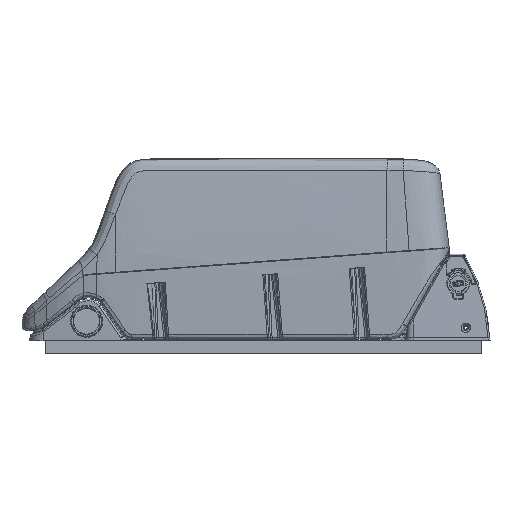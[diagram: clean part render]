
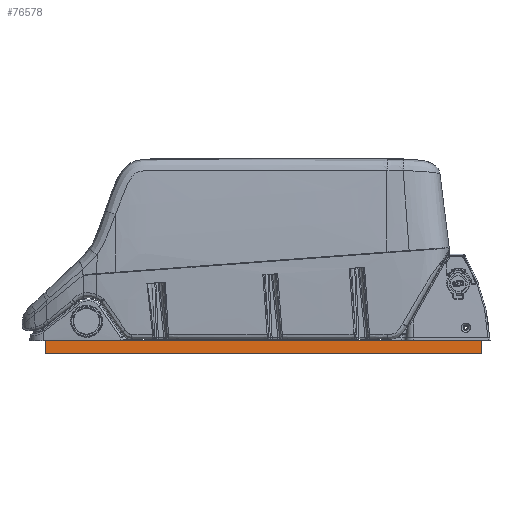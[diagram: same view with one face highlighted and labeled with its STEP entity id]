
A CAD part, top view. The second image highlights one B-rep face of the part: STEP entity #76578.
In plain terms, the highlighted planar face has unit normal (0, 0, 1).
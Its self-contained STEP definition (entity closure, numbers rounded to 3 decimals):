
#6891=FACE_OUTER_BOUND('',#11564,.T.);
#11564=EDGE_LOOP('',(#55137,#55138,#55139,#55140,#55141,#55142,#55143,#55144));
#20102=LINE('',#133640,#25059);
#20115=LINE('',#133684,#25072);
#20530=LINE('',#139173,#25487);
#20537=LINE('',#139184,#25494);
#20609=LINE('',#139679,#25566);
#20638=LINE('',#139737,#25595);
#21418=LINE('',#144743,#26375);
#21419=LINE('',#144744,#26376);
#25059=VECTOR('',#87732,26.362);
#25072=VECTOR('',#87755,35.183);
#25487=VECTOR('',#89014,11.263);
#25494=VECTOR('',#89023,10.);
#25566=VECTOR('',#89145,10.2);
#25595=VECTOR('',#89192,10.);
#26375=VECTOR('',#91140,10.2);
#26376=VECTOR('',#91141,339.198);
#30366=VERTEX_POINT('',#133638);
#30367=VERTEX_POINT('',#133639);
#30385=VERTEX_POINT('',#133681);
#30386=VERTEX_POINT('',#133683);
#30931=VERTEX_POINT('',#139182);
#31011=VERTEX_POINT('',#139678);
#31031=VERTEX_POINT('',#139736);
#31781=VERTEX_POINT('',#144742);
#38321=EDGE_CURVE('',#30366,#30367,#20102,.T.);
#38340=EDGE_CURVE('',#30386,#30385,#20115,.T.);
#39109=EDGE_CURVE('',#30386,#30367,#20530,.T.);
#39116=EDGE_CURVE('',#30931,#30385,#20537,.T.);
#39214=EDGE_CURVE('',#30366,#31011,#20609,.T.);
#39245=EDGE_CURVE('',#31031,#30931,#20638,.T.);
#40402=EDGE_CURVE('',#31781,#31031,#21418,.T.);
#40403=EDGE_CURVE('',#31011,#31781,#21419,.T.);
#55137=ORIENTED_EDGE('',*,*,#38321,.T.);
#55138=ORIENTED_EDGE('',*,*,#39109,.F.);
#55139=ORIENTED_EDGE('',*,*,#38340,.T.);
#55140=ORIENTED_EDGE('',*,*,#39116,.F.);
#55141=ORIENTED_EDGE('',*,*,#39245,.F.);
#55142=ORIENTED_EDGE('',*,*,#40402,.F.);
#55143=ORIENTED_EDGE('',*,*,#40403,.F.);
#55144=ORIENTED_EDGE('',*,*,#39214,.F.);
#74515=PLANE('',#81774);
#76578=ADVANCED_FACE('',(#6891),#74515,.F.);
#81774=AXIS2_PLACEMENT_3D('',#144741,#91138,#91139);
#87732=DIRECTION('',(-1.,0.,0.));
#87755=DIRECTION('',(-1.,0.,0.));
#89014=DIRECTION('',(1.,0.,0.));
#89023=DIRECTION('',(1.,0.,0.));
#89145=DIRECTION('',(0.,-1.,0.));
#89192=DIRECTION('',(1.,0.,0.));
#91138=DIRECTION('center_axis',(0.,0.,-1.));
#91139=DIRECTION('ref_axis',(-1.,0.,0.));
#91140=DIRECTION('',(0.,1.,0.));
#91141=DIRECTION('',(-1.,0.,0.));
#133638=CARTESIAN_POINT('',(29.879,-6.,15.052));
#133639=CARTESIAN_POINT('',(3.516,-6.,15.052));
#133640=CARTESIAN_POINT('',(29.879,-6.,15.052));
#133681=CARTESIAN_POINT('',(-42.931,-6.,15.052));
#133683=CARTESIAN_POINT('',(-7.747,-6.,15.052));
#133684=CARTESIAN_POINT('',(-7.747,-6.,15.052));
#139173=CARTESIAN_POINT('',(-7.747,-6.,15.052));
#139182=CARTESIAN_POINT('',(-242.437,-6.,15.052));
#139184=CARTESIAN_POINT('',(-255.356,-6.,15.052));
#139678=CARTESIAN_POINT('',(29.879,-16.2,15.052));
#139679=CARTESIAN_POINT('',(29.879,-6.,15.052));
#139736=CARTESIAN_POINT('',(-309.319,-6.,15.052));
#139737=CARTESIAN_POINT('',(-321.991,-6.,15.052));
#144741=CARTESIAN_POINT('Origin',(-360.121,-9.,15.052));
#144742=CARTESIAN_POINT('',(-309.319,-16.2,15.052));
#144743=CARTESIAN_POINT('',(-309.319,-16.2,15.052));
#144744=CARTESIAN_POINT('',(29.879,-16.2,15.052));
